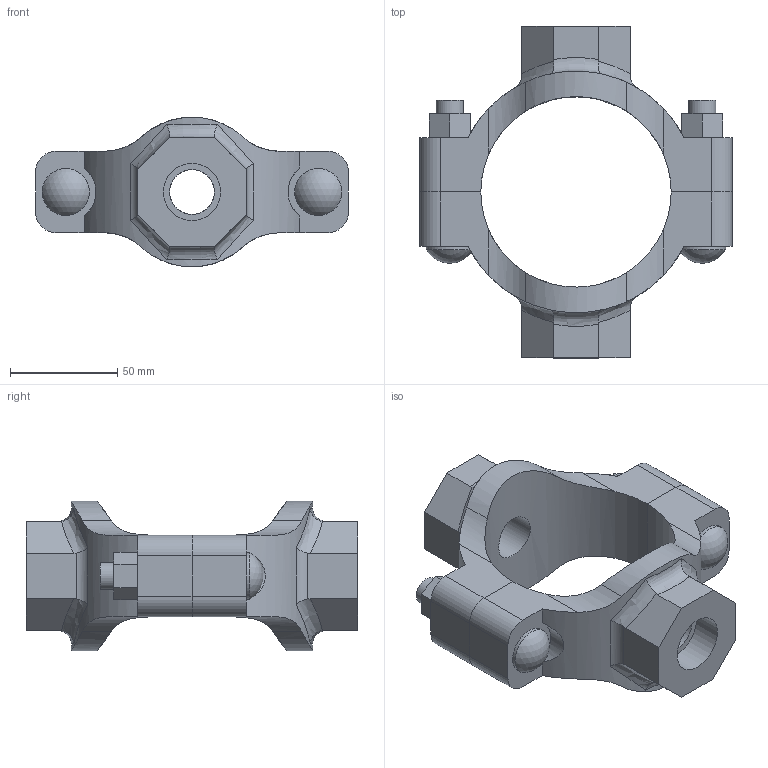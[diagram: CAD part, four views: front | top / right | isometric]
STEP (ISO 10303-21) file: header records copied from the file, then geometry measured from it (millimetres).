
FILE_DESCRIPTION(/* description */ ('VIC MECH-T BRANCH OUTLET CROSS STYLE 920N (THD)','CAx-IF Rec.Pracs.---Representation and Presentation of Product Manufacturing Information (PMI)---4.0---2014-10-13'),/* implementation_level */ '2;1');
FILE_NAME(/* name */ 'C:\Users\Vjadhav\AppData\Roaming\Autodesk\ApplicationPlugins\Back Up\Victaulic_IPS_Mechanical-Cross Outlet_Style 920N (FPT)\Victaulic_IPS_Mechanical-Cross Outlet_03.0x0.75x0.75 (80x20x20).stp',/* time_stamp */ '2020-08-06T18:57:16+05:00',/* author */ ('Vjadhav'),/* organization */ ('Victaulic'),/* preprocessor_version */ 'ST-DEVELOPER v17.2',/* originating_system */ 'Autodesk Inventor 2019',/* authorisation */ '');
FILE_SCHEMA (('FEATURE_BASED_PROCESS_PLANNING','AP242_MANAGED_MODEL_BASED_3D_ENGINEERING_MIM_LF { 1 0 10303 442 1 1 4 }'));
Length unit declared in the file: inch
Products named in the file (3): 920NT-03.0x0.75x0.75; 920NT-03.0x0.75; 920NT-03.0x0.75_1
Assembly tree (2 placements, depth 2):
  920NT-03.0x0.75x0.75
    920NT-03.0x0.75
    920NT-03.0x0.75_1
Bounding box: 146.05 x 154.94 x 69.84 mm (x, y, z)
Volume: 316192 mm3; surface area: 71764.2 mm2
Topology: 2 solids, 2 shells, 132 faces, 350 edges, 236 vertices
Faces by surface type: plane 68, cylinder 50, bspline 8, torus 4, sphere 2
Full cylindrical faces by diameter (mm): 12.7 x4, 20.93 x2, 21.982 x2, 26.67 x2
Entity records: 5070 total; most frequent: CARTESIAN_POINT 1557, ORIENTED_EDGE 700, DIRECTION 648, EDGE_CURVE 350, VERTEX_POINT 236, AXIS2_PLACEMENT_3D 231, LINE 186, VECTOR 186
